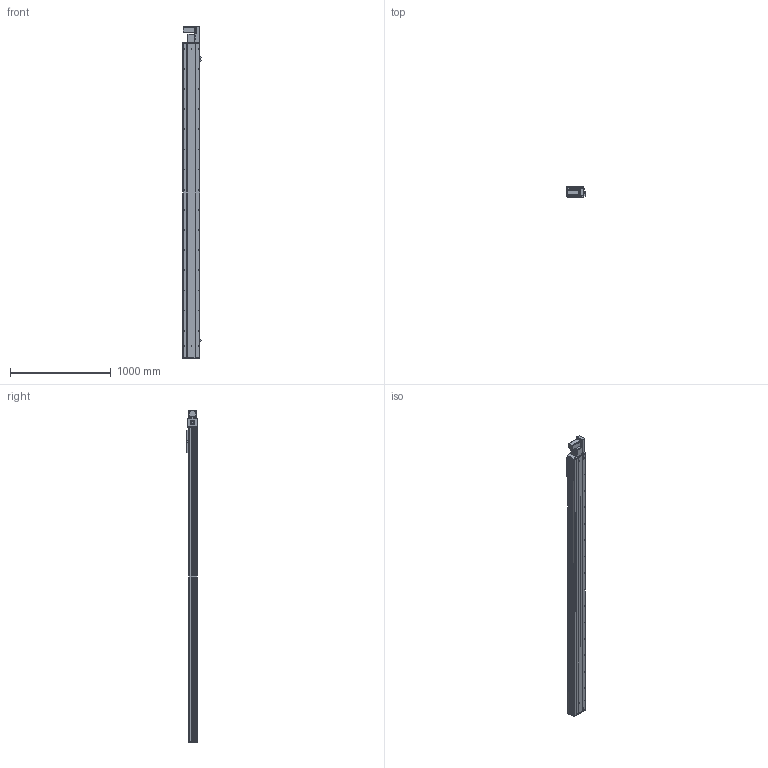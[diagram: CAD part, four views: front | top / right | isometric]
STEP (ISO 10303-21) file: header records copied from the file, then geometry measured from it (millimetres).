
FILE_DESCRIPTION (( 'STEP AP203' ), '1' );
FILE_NAME ('Y170CB-D105-S2800-BR-P400W.STEP', '2020-02-19T09:58:03', ( '微软用户' ), ( '微软中国' ), 'SwSTEP 2.0', 'SolidWorks 2017', '' );
FILE_SCHEMA (( 'CONFIG_CONTROL_DESIGN' ));
Length unit declared in the file: millimetre
Products named in the file (17): 70B喘謫眊----; 17B-耜蚾蟀諉啣----; 0B-萇儂楊擘啣; san松下电机400不带刹车----; Y70俋欶BR----; 70CB-掛极-; --70CB --喘謫眊楊擘啣-; 70CB-耜裔啣-; 70C--詩湍揤踡え-; 70CB--耜裔; 70C-雄赽釱-奻-; 0C--雄赽釱俋欶-170; 70CB-詩湍--; Y100-135俋离換覜ん--; Y170CB-陔俋离換覜結え---; Y170CB-D105-S2800-BR-P400W; B-源倛裔啣
Assembly tree (20 placements, depth 2):
  Y170CB-D105-S2800-BR-P400W
    70B喘謫眊----
    B-源倛裔啣
    17B-耜蚾蟀諉啣----
    0B-萇儂楊擘啣
    san松下电机400不带刹车----
    Y70俋欶BR----
    70CB-掛极-
    --70CB --喘謫眊楊擘啣-
    70CB-耜裔啣-  x2
    70C--詩湍揤踡え-  x2
    70CB--耜裔
    70C-雄赽釱-奻-
    0C--雄赽釱俋欶-170
    70CB-詩湍--
    Y100-135俋离換覜ん--  x3
    Y170CB-陔俋离換覜結え---
Bounding box: 183.5 x 107 x 3297 mm (x, y, z)
Volume: 13619604.4 mm3; surface area: 4914209.9 mm2
Topology: 20 solids, 20 shells, 1065 faces, 2873 edges, 1906 vertices
Faces by surface type: cylinder 579, plane 462, cone 24
Entity records: 34087 total; most frequent: CARTESIAN_POINT 6321, DIRECTION 5548, ORIENTED_EDGE 5228, EDGE_CURVE 2614, AXIS2_PLACEMENT_3D 2045, VERTEX_POINT 1736, LINE 1458, VECTOR 1458
